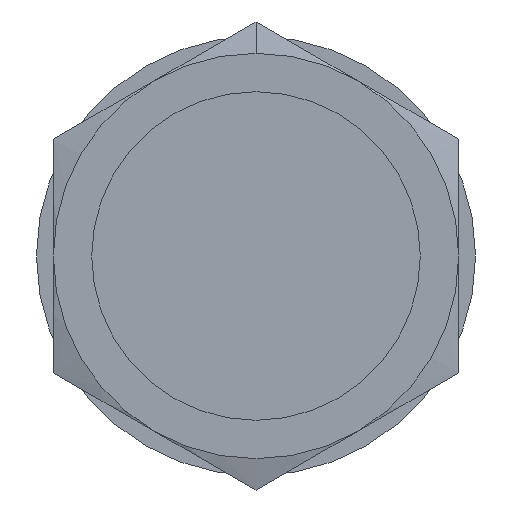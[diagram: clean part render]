
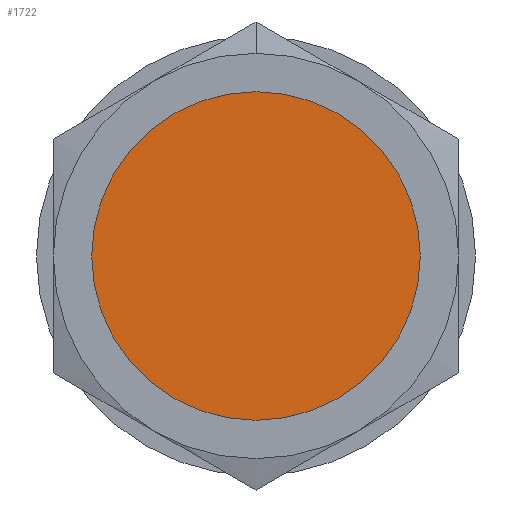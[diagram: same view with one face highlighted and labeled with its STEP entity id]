
A CAD part, front view. The second image highlights one B-rep face of the part: STEP entity #1722.
In plain terms, the highlighted planar face has unit normal (0, -1, 0).
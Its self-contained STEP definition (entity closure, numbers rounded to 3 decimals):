
#119 = CIRCLE ( 'NONE', #1556, 4.864 ) ;
#141 = CARTESIAN_POINT ( 'NONE',  ( 0., -3.1, 0. ) ) ;
#217 = CARTESIAN_POINT ( 'NONE',  ( 0., -3.1, 4.864 ) ) ;
#261 = CIRCLE ( 'NONE', #1391, 4.864 ) ;
#516 = VERTEX_POINT ( 'NONE', #217 ) ;
#543 = VERTEX_POINT ( 'NONE', #1730 ) ;
#567 = EDGE_LOOP ( 'NONE', ( #625, #1657 ) ) ;
#625 = ORIENTED_EDGE ( 'NONE', *, *, #744, .T. ) ;
#744 = EDGE_CURVE ( 'NONE', #543, #516, #261, .T. ) ;
#832 = DIRECTION ( 'NONE',  ( 0., -1., 0. ) ) ;
#852 = FACE_OUTER_BOUND ( 'NONE', #567, .T. ) ;
#1044 = DIRECTION ( 'NONE',  ( 0., -1., 0. ) ) ;
#1121 = DIRECTION ( 'NONE',  ( 1., 0., 0. ) ) ;
#1253 = DIRECTION ( 'NONE',  ( 0., 1., 0. ) ) ;
#1285 = DIRECTION ( 'NONE',  ( 0., 0., -1. ) ) ;
#1379 = EDGE_CURVE ( 'NONE', #516, #543, #119, .T. ) ;
#1391 = AXIS2_PLACEMENT_3D ( 'NONE', #141, #832, #1399 ) ;
#1392 = CARTESIAN_POINT ( 'NONE',  ( 4.864, -3.1, 0. ) ) ;
#1399 = DIRECTION ( 'NONE',  ( 0., 0., -1. ) ) ;
#1538 = PLANE ( 'NONE',  #1686 ) ;
#1556 = AXIS2_PLACEMENT_3D ( 'NONE', #1726, #1044, #1285 ) ;
#1657 = ORIENTED_EDGE ( 'NONE', *, *, #1379, .T. ) ;
#1686 = AXIS2_PLACEMENT_3D ( 'NONE', #1392, #1253, #1121 ) ;
#1722 = ADVANCED_FACE ( 'NONE', ( #852 ), #1538, .F. ) ;
#1726 = CARTESIAN_POINT ( 'NONE',  ( 0., -3.1, 0. ) ) ;
#1730 = CARTESIAN_POINT ( 'NONE',  ( 0., -3.1, -4.864 ) ) ;
